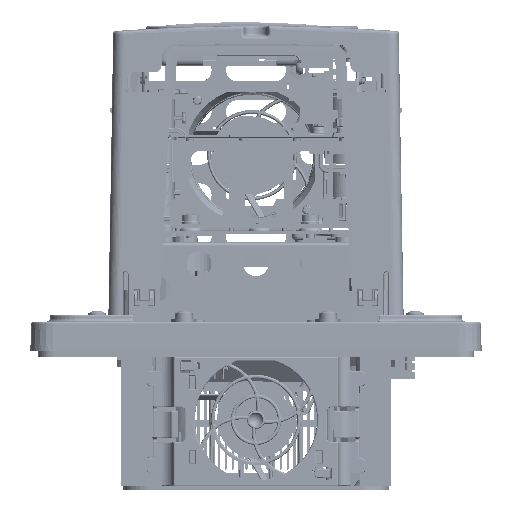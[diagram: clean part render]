
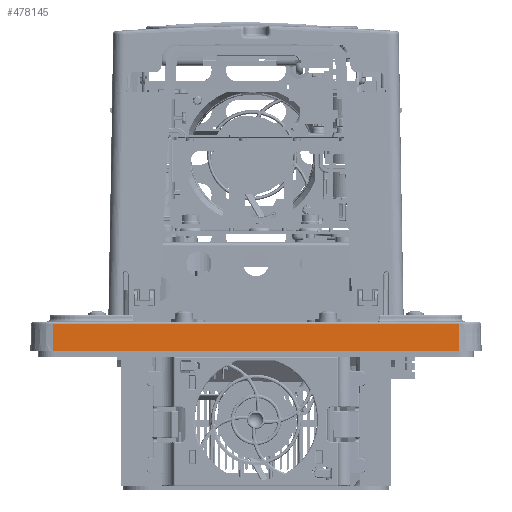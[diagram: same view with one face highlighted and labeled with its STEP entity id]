
A CAD part, front view. The second image highlights one B-rep face of the part: STEP entity #478145.
In plain terms, the highlighted planar face has unit normal (0, -1, 0.026).
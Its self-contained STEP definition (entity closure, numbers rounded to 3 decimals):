
#458327=DIRECTION('',(1.,0.,0.));
#458328=VECTOR('',#458327,185.5);
#458329=CARTESIAN_POINT('',(-92.75,-240.9,0.));
#458330=LINE('',#458329,#458328);
#458536=DIRECTION('',(1.,0.,0.));
#458537=VECTOR('',#458536,185.5);
#458538=CARTESIAN_POINT('',(-92.75,-240.58,
12.226));
#458539=LINE('',#458538,#458537);
#458540=DIRECTION('',(0.,-0.026,
-1.));
#458541=VECTOR('',#458540,12.23);
#458542=CARTESIAN_POINT('',(92.75,-240.58,
12.226));
#458543=LINE('',#458542,#458541);
#458544=DIRECTION('',(0.,-0.026,
-1.));
#458545=VECTOR('',#458544,12.23);
#458546=CARTESIAN_POINT('',(-92.75,-240.58,
12.226));
#458547=LINE('',#458546,#458545);
#469740=CARTESIAN_POINT('',(92.75,-240.9,0.));
#469742=VERTEX_POINT('',#469740);
#469743=CARTESIAN_POINT('',(-92.75,-240.9,0.));
#469745=VERTEX_POINT('',#469743);
#469752=CARTESIAN_POINT('',(-92.75,-240.58,12.226));
#469754=VERTEX_POINT('',#469752);
#469757=CARTESIAN_POINT('',(92.75,-240.58,
12.226));
#469758=VERTEX_POINT('',#469757);
#478133=CARTESIAN_POINT('',(-110.656,-240.555,13.2));
#478134=DIRECTION('',(0.,-1.,0.026));
#478135=DIRECTION('',(1.,0.,0.));
#478136=AXIS2_PLACEMENT_3D('',#478133,#478134,#478135);
#478137=PLANE('',#478136);
#478138=ORIENTED_EDGE('',*,*,#478020,.T.);
#478139=ORIENTED_EDGE('',*,*,#478128,.T.);
#478140=ORIENTED_EDGE('',*,*,#477924,.F.);
#478142=ORIENTED_EDGE('',*,*,#478141,.F.);
#478143=EDGE_LOOP('',(#478138,#478139,#478140,#478142));
#478144=FACE_OUTER_BOUND('',#478143,.F.);
#478145=ADVANCED_FACE('',(#478144),#478137,.T.);
#477924=EDGE_CURVE('',#469745,#469742,#458330,.T.);
#478020=EDGE_CURVE('',#469754,#469758,#458539,.T.);
#478128=EDGE_CURVE('',#469758,#469742,#458543,.T.);
#478141=EDGE_CURVE('',#469754,#469745,#458547,.T.);
